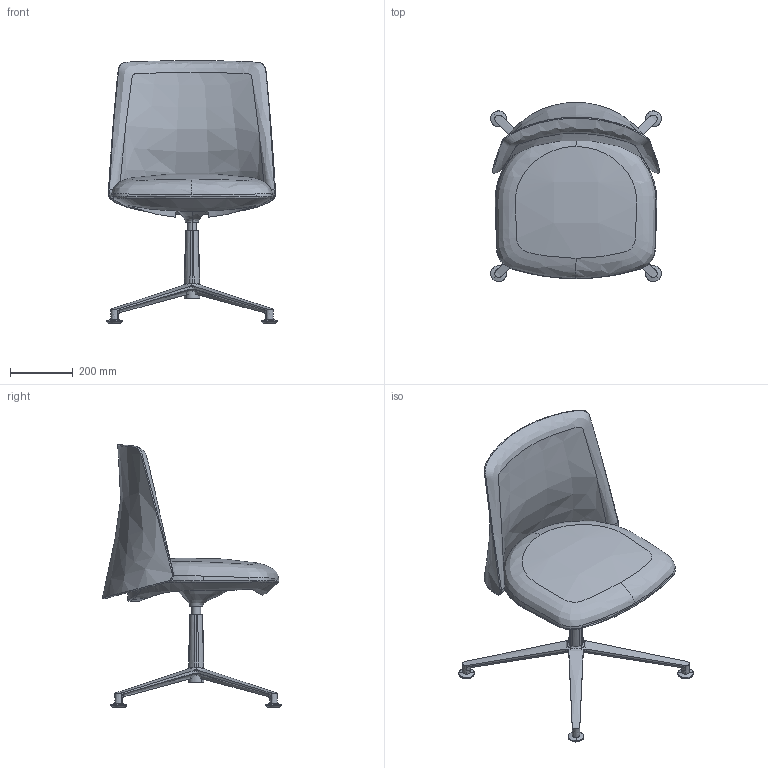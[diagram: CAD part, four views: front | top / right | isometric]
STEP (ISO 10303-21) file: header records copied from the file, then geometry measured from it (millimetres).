
FILE_DESCRIPTION(/* description */ (''),/* implementation_level */ '2;1');
FILE_NAME(/* name */ 'MELODY~4',/* time_stamp */ '2016-11-30T15:45:18+01:00',/* author */ (''),/* organization */ (''),/* preprocessor_version */ 'ST-DEVELOPER v15',/* originating_system */ '',/* authorisation */ '');
FILE_SCHEMA (('CONFIG_CONTROL_DESIGN'));
Length unit declared in the file: millimetre
Products named in the file (1): Document
Bounding box: 542.14 x 568.65 x 834.53 mm (x, y, z)
Volume: 26755950.5 mm3; surface area: 1564185.5 mm2
Topology: 3 solids, 18 shells, 208 faces, 516 edges, 327 vertices
Faces by surface type: bspline 158, plane 50
Entity records: 14483 total; most frequent: CARTESIAN_POINT 11440, ORIENTED_EDGE 962, EDGE_CURVE 513, VERTEX_POINT 321, B_SPLINE_CURVE_WITH_KNOTS 275, ADVANCED_FACE 208, FACE_OUTER_BOUND 208, EDGE_LOOP 208
